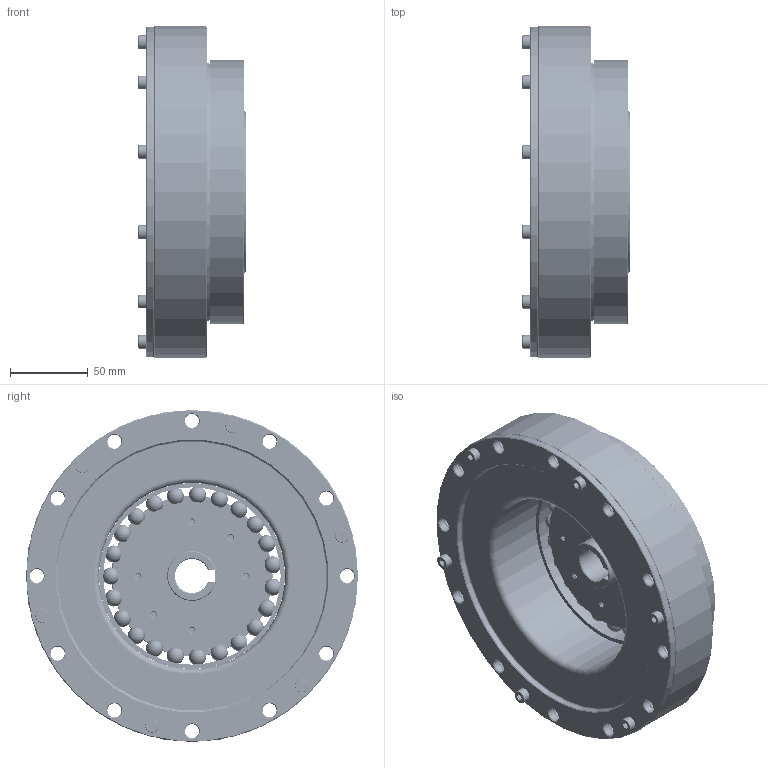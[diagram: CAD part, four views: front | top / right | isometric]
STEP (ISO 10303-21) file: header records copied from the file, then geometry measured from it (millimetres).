
FILE_DESCRIPTION(/* description */ (''),/* implementation_level */ '2;1');
FILE_NAME(/* name */ 'XBF50成品图.prt.stp',/* time_stamp */ '2022-07-23T10:22:55+08:00',/* author */ (''),/* organization */ (''),/* preprocessor_version */ 'ST-DEVELOPER v16',/* originating_system */ 'SIEMENS PLM Software NX 10.0',/* authorisation */ '');
FILE_SCHEMA (('CONFIG_CONTROL_DESIGN'));
Products named in the file (12): XBS50-3-1凸轮; 50-柔性轴承（国标）; M5X16; M5X26; XBK50-2柔轮; M4X14; XBK50-4-1-1销子; D1681868; XBK50-1钢轮; XBK50-4-1内芯; XBK50-4-2外圈; XBF50成品图
Assembly tree (23 placements, depth 2):
  XBF50成品图
    XBK50-4-2外圈
    XBK50-4-1内芯
    XBK50-1钢轮
    D1681868
    XBK50-4-1-1销子
    M4X14
    XBK50-2柔轮
    M5X26  x8
    M5X16  x6
    50-柔性轴承（国标）
    XBS50-3-1凸轮
Bounding box: 69 x 214 x 214 mm (x, y, z)
Volume: 1159412.8 mm3; surface area: 397166.3 mm2
Topology: 47 solids, 47 shells, 1071 faces, 2732 edges, 1770 vertices
Faces by surface type: plane 306, cylinder 289, cone 287, bspline 160, sphere 23, torus 6
Full cylindrical faces by diameter (mm): 4.5 x1, 5 x66, 5.5 x14, 7.22 x1, 8 x1, 8.72 x14, 9 x40, 9.5 x8, 32 x1, 88 x1, 90 x1, 92 x1, 95.7 x2, 104 x1, 114.3 x2, 120 x2, 123.014 x1, 129 x1, 129.1 x1, 135 x2, 135.6 x2, 141 x2, 152.6 x1, 168 x2, 170 x1, 172 x2, 175 x1, 180 x1, 182.6 x1, 186 x2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
Entity records: 184692 total; most frequent: CARTESIAN_POINT 167752, ORIENTED_EDGE 2884, DIRECTION 2731, EDGE_CURVE 1442, EDGE_LOOP 1219, AXIS2_PLACEMENT_3D 1204, VERTEX_POINT 1144, FACE_BOUND 910
